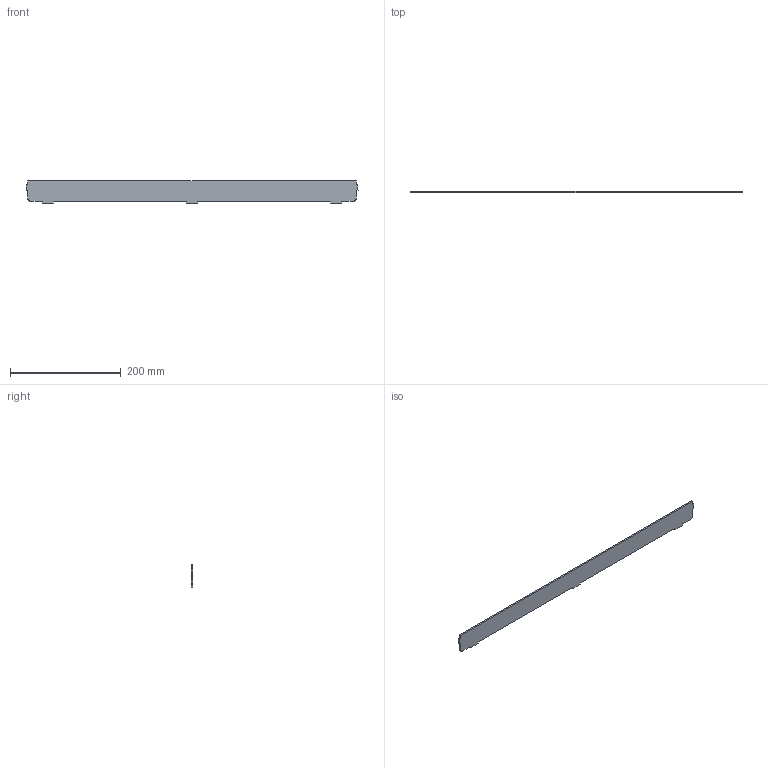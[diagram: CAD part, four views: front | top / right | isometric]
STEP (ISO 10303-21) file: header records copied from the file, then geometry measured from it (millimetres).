
FILE_DESCRIPTION (( 'STEP AP203' ), '1' );
FILE_NAME ('ORW-72.24.20.10.003 砑鳧罻.STEP', '2025-10-13T13:18:56', ( '燴僽樥' ), ( '' ), 'SwSTEP 2.0', 'SolidWorks 2025', '' );
FILE_SCHEMA (( 'CONFIG_CONTROL_DESIGN' ));
Length unit declared in the file: millimetre
Products named in the file (1): ORW-72.24.20.10.003 Планка
Bounding box: 600 x 3 x 40 mm (x, y, z)
Volume: 66607.6 mm3; surface area: 48265.6 mm2
Topology: 1 solids, 1 shells, 28 faces, 78 edges, 52 vertices
Faces by surface type: plane 26, cylinder 2
Entity records: 951 total; most frequent: CARTESIAN_POINT 169, ORIENTED_EDGE 156, DIRECTION 130, EDGE_CURVE 78, VECTOR 64, LINE 64, VERTEX_POINT 52, AXIS2_PLACEMENT_3D 33
